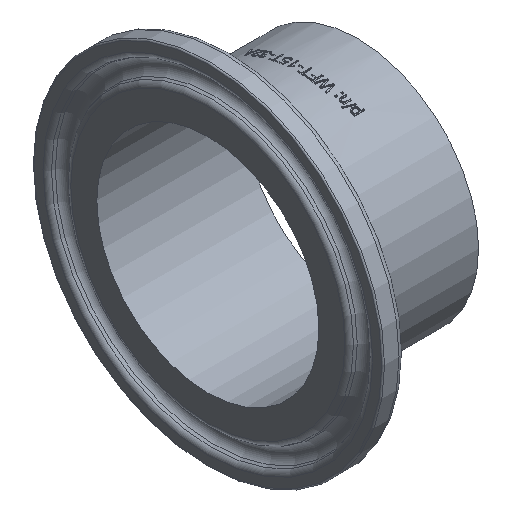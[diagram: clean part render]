
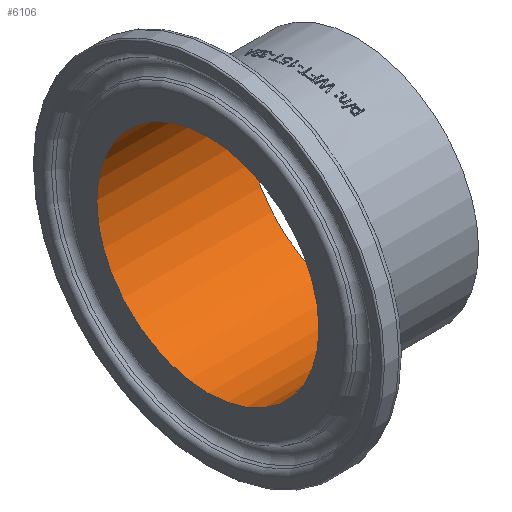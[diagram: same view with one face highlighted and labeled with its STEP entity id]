
A CAD part, isometric view. The second image highlights one B-rep face of the part: STEP entity #6106.
In plain terms, the highlighted cylindrical face has radius 16 mm (diameter 32 mm), a full revolution.
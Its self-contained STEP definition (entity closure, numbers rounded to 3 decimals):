
#1058=CYLINDRICAL_SURFACE('',#6432,16.);
#1293=ORIENTED_EDGE('',*,*,#2606,.T.);
#1294=ORIENTED_EDGE('',*,*,#2607,.F.);
#2606=EDGE_CURVE('',#3265,#3265,#3577,.T.);
#2607=EDGE_CURVE('',#3266,#3266,#3578,.T.);
#3265=VERTEX_POINT('',#8218);
#3266=VERTEX_POINT('',#8221);
#3577=CIRCLE('',#6431,16.);
#3578=CIRCLE('',#6433,16.);
#3675=EDGE_LOOP('',(#1293));
#3676=EDGE_LOOP('',(#1294));
#3985=FACE_BOUND('',#3675,.T.);
#3986=FACE_BOUND('',#3676,.T.);
#6106=ADVANCED_FACE('',(#3985,#3986),#1058,.F.);
#6431=AXIS2_PLACEMENT_3D('',#8217,#6813,#6814);
#6432=AXIS2_PLACEMENT_3D('',#8219,#6815,#6816);
#6433=AXIS2_PLACEMENT_3D('',#8220,#6817,#6818);
#6813=DIRECTION('',(1.,0.,0.));
#6814=DIRECTION('',(0.,-1.,0.));
#6815=DIRECTION('',(1.,0.,0.));
#6816=DIRECTION('',(0.,-1.,0.));
#6817=DIRECTION('',(1.,0.,0.));
#6818=DIRECTION('',(0.,-1.,0.));
#8217=CARTESIAN_POINT('',(21.5,0.,0.));
#8218=CARTESIAN_POINT('',(21.5,-16.,0.));
#8219=CARTESIAN_POINT('',(10.75,0.,0.));
#8220=CARTESIAN_POINT('',(0.,0.,0.));
#8221=CARTESIAN_POINT('',(0.,-16.,0.));
